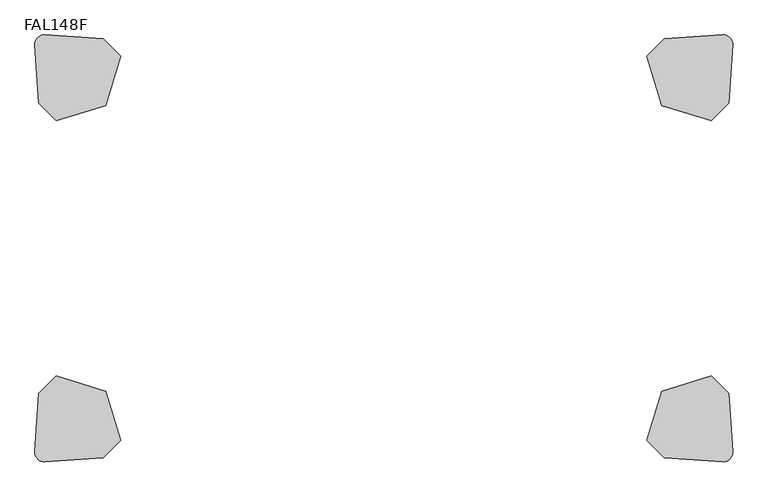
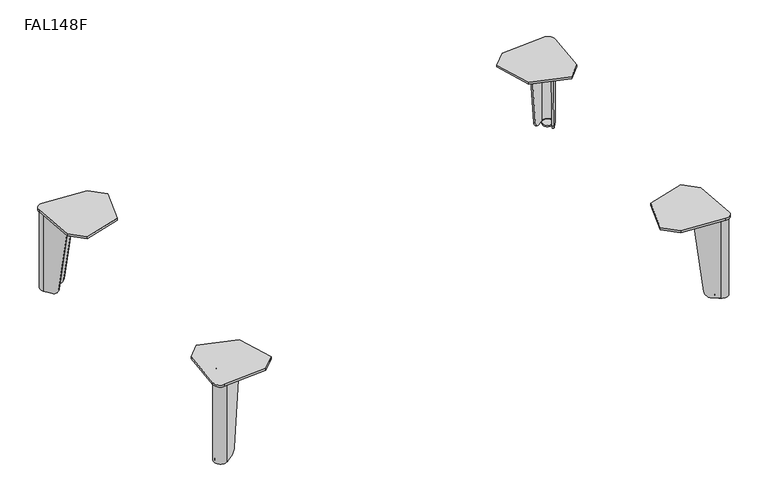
"""IFC4 building model written with IfcOpenShell, lengths in millimetres: furniture geometry, Stance_HC-Flora-Seat_Straight : FAL148F."""

import ifcopenshell
import ifcopenshell.guid

model = None  # the IFC model being written
_history = None  # IfcOwnerHistory: only IFC2X3 demands one
_inside = {}  # id of a spatial element -> (the spatial element, [elements in it])
_under = {}  # id of a project, library or spatial element -> (it, [spatial elements below it])
_declared = {}  # id of a project -> (the project, [libraries it declares])
_typed = {}  # id of a type object -> (the type object, [elements of that type])
_made_of = {}  # id of a material, layer set ... -> (it, [elements and type objects made of it])


def new_model(schema):
    """Start an empty IFC model of exactly this schema.

    Asked for "IFC4X3", IfcOpenShell would pick the latest addendum, in which some entities
    have other attributes; the version numbers below select the first issue.
    IFC2X3 requires an IfcOwnerHistory on every rooted entity: one is made here for all.
    """
    global model, _history
    if schema == "IFC4X3":
        model = ifcopenshell.file(schema_version=(4, 3, 0, 0))
    else:
        model = ifcopenshell.file(schema=schema)
    _inside.clear()
    _under.clear()
    _declared.clear()
    _typed.clear()
    _made_of.clear()
    _history = None
    if model.schema == "IFC2X3":
        org = make("IfcOrganization", Name="unknown")
        user = make(
            "IfcPersonAndOrganization",
            ThePerson=make("IfcPerson", FamilyName="unknown"),
            TheOrganization=org,
        )
        app = make(
            "IfcApplication",
            ApplicationDeveloper=org,
            Version="unknown",
            ApplicationFullName="unknown",
            ApplicationIdentifier="unknown",
        )
        _history = make(
            "IfcOwnerHistory",
            OwningUser=user,
            OwningApplication=app,
            ChangeAction="ADDED",
            CreationDate=0,
        )
    return model


def make(cls, **values):
    """One entity of the class cls with the attributes given. An attribute that is None is left unset."""
    return model.create_entity(
        cls, **{name: value for name, value in values.items() if value is not None}
    )


def rooted(cls, **values):
    """An entity with a GlobalId (a new one), such as an element, a storey or a relation."""
    return make(cls, GlobalId=ifcopenshell.guid.new(), OwnerHistory=_history, **values)


def si_unit(unit_type, name, prefix=None):
    """IfcSIUnit, for example si_unit("LENGTHUNIT", "METRE", prefix="MILLI")."""
    return make("IfcSIUnit", UnitType=unit_type, Prefix=prefix, Name=name)


def assignment(units):
    """IfcUnitAssignment: the units of a project."""
    return None if units is None else make("IfcUnitAssignment", Units=units)


def point(xyz):
    """IfcCartesianPoint."""
    return None if xyz is None else make("IfcCartesianPoint", Coordinates=xyz)


def direction(xyz):
    """IfcDirection."""
    return None if xyz is None else make("IfcDirection", DirectionRatios=xyz)


def frame(location, z_axis=None, x_axis=None):
    """IfcAxis2Placement3D, a coordinate frame: its origin and axes. An axis left out is left unset."""
    return make(
        "IfcAxis2Placement3D",
        Location=point(location),
        Axis=direction(z_axis),
        RefDirection=direction(x_axis),
    )


def frame_2d(location, x_axis=None):
    """IfcAxis2Placement2D, a coordinate frame in the plane: its origin and x axis."""
    return make(
        "IfcAxis2Placement2D", Location=point(location), RefDirection=direction(x_axis)
    )


def origin():
    """The frame at (0, 0, 0) with its axes left unset."""
    return frame((0.0, 0.0, 0.0))


def origin_with_axes():
    """The frame at (0, 0, 0) with the z axis (0, 0, 1) and the x axis (1, 0, 0) written out."""
    return frame((0.0, 0.0, 0.0), z_axis=(0.0, 0.0, 1.0), x_axis=(1.0, 0.0, 0.0))


def place(relative_to, where):
    """IfcLocalPlacement: puts the frame where relative to a parent placement (None: the world)."""
    return make(
        "IfcLocalPlacement", PlacementRelTo=relative_to, RelativePlacement=where
    )


def context(
    kind, dimensions, precision=None, world=None, true_north=None, identifier=None
):
    """IfcGeometricRepresentationContext, for example the 3D "Model" context."""
    return make(
        "IfcGeometricRepresentationContext",
        ContextIdentifier=identifier,
        ContextType=kind,
        CoordinateSpaceDimension=dimensions,
        Precision=precision,
        WorldCoordinateSystem=world,
        TrueNorth=true_north,
    )


def project(units=None, contexts=None):
    """IfcProject with its units and contexts."""
    return rooted(
        "IfcProject",
        Name="project",
        RepresentationContexts=contexts,
        UnitsInContext=assignment(units),
    )


def spatial(cls, under=None, at=None, **own):
    """A site, building, storey or space (cls), placed at a placement, below another one or the project."""
    s = rooted(cls, ObjectPlacement=at, **own)
    if under is not None:
        _under.setdefault(under.id(), (under, []))[1].append(s)
    return s


def polyline(points):
    """IfcPolyline through the points."""
    return make("IfcPolyline", Points=[point(p) for p in points])


def circle_curve(where, radius):
    """IfcCircle in the frame where."""
    return make("IfcCircle", Position=where, Radius=radius)


def ellipse_curve(where, semi_axis1, semi_axis2):
    """IfcEllipse in the frame where."""
    return make(
        "IfcEllipse", Position=where, SemiAxis1=semi_axis1, SemiAxis2=semi_axis2
    )


def trimmed(basis, trim1, trim2, sense, master):
    """IfcTrimmedCurve: the piece of a basis curve between two trims."""
    return make(
        "IfcTrimmedCurve",
        BasisCurve=basis,
        Trim1=trim1,
        Trim2=trim2,
        SenseAgreement=sense,
        MasterRepresentation=master,
    )


def segment(curve, same_sense, transition):
    """IfcCompositeCurveSegment."""
    return make(
        "IfcCompositeCurveSegment",
        Transition=transition,
        SameSense=same_sense,
        ParentCurve=curve,
    )


def composite_curve(segments, self_intersect=None):
    """IfcCompositeCurve: segments joined end to end."""
    return make("IfcCompositeCurve", Segments=segments, SelfIntersect=self_intersect)


def outline(outer, holes=None, kind="AREA"):
    """IfcArbitraryClosedProfileDef: a profile drawn as a closed curve; with holes, ...WithVoids."""
    if holes is None:
        return make("IfcArbitraryClosedProfileDef", ProfileType=kind, OuterCurve=outer)
    return make(
        "IfcArbitraryProfileDefWithVoids",
        ProfileType=kind,
        OuterCurve=outer,
        InnerCurves=holes,
    )


def extrude(swept, where, along, depth):
    """IfcExtrudedAreaSolid: the profile swept, set in the frame where, extruded along a direction by depth."""
    return make(
        "IfcExtrudedAreaSolid",
        SweptArea=swept,
        Position=where,
        ExtrudedDirection=direction(along),
        Depth=depth,
    )


def shape(context_of_items, identifier, shape_type, items):
    """IfcShapeRepresentation: the items that make up one representation, for example the "Body"."""
    return make(
        "IfcShapeRepresentation",
        ContextOfItems=context_of_items,
        RepresentationIdentifier=identifier,
        RepresentationType=shape_type,
        Items=items,
    )


def source(mapping_origin, context_of_items, identifier, shape_type, items):
    """IfcRepresentationMap: a shape defined once, which mapped items show again and again."""
    return make(
        "IfcRepresentationMap",
        MappingOrigin=mapping_origin,
        MappedRepresentation=shape(context_of_items, identifier, shape_type, items),
    )


def transform(
    local_origin,
    x_axis=None,
    y_axis=None,
    z_axis=None,
    scale=None,
    scale2=None,
    scale3=None,
    uniform=True,
):
    """IfcCartesianTransformationOperator3D, or its non-uniform kind. x_axis, y_axis, z_axis: its Axis1, 2, 3."""
    if uniform:
        return make(
            "IfcCartesianTransformationOperator3D",
            Axis1=direction(x_axis),
            Axis2=direction(y_axis),
            LocalOrigin=point(local_origin),
            Scale=scale,
            Axis3=direction(z_axis),
        )
    return make(
        "IfcCartesianTransformationOperator3DnonUniform",
        Axis1=direction(x_axis),
        Axis2=direction(y_axis),
        LocalOrigin=point(local_origin),
        Scale=scale,
        Axis3=direction(z_axis),
        Scale2=scale2,
        Scale3=scale3,
    )


def mapped(mapping_source, mapping_target):
    """IfcMappedItem: shows the shape of a source again, moved by a transform."""
    return make(
        "IfcMappedItem", MappingSource=mapping_source, MappingTarget=mapping_target
    )


def made_of(thing, what):
    """Note that an element or type object is made of a material, layer set ...; save() writes the relation."""
    if what is not None:
        _made_of.setdefault(what.id(), (what, []))[1].append(thing)
    return thing


def element(
    cls,
    number,
    at=None,
    inside=None,
    cuts=None,
    type_object=None,
    material=None,
    context=None,
    identifier="Body",
    shape_type=None,
    held_by="IfcProductDefinitionShape",
    body=None,
    shapes=None,
    **own,
):
    """One element of the class cls, such as IfcWall. Its Tag is "e" and its number.

    at: its placement. inside: the storey or other place that contains it. cuts: it is an
    opening in that element (IfcRelVoidsElement). A single representation is given by context,
    identifier, shape_type and body (its items); several are given by shapes. held_by: the class
    of the entity that holds the representations. save() writes the other relations.
    """
    e = rooted(cls, Tag="e%d" % number, ObjectPlacement=at, **own)
    if body is not None:
        shapes = [shape(context, identifier, shape_type, body)]
    if shapes is not None:
        e.Representation = make(held_by, Representations=shapes)
    if inside is not None:
        _inside.setdefault(inside.id(), (inside, []))[1].append(e)
    if cuts is not None:
        rooted(
            "IfcRelVoidsElement", RelatingBuildingElement=cuts, RelatedOpeningElement=e
        )
    if type_object is not None:
        _typed.setdefault(type_object.id(), (type_object, []))[1].append(e)
    return made_of(e, material)


def aggregate(whole, parts):
    """IfcRelAggregates: a whole, such as a stair, and the parts it consists of."""
    return rooted("IfcRelAggregates", RelatingObject=whole, RelatedObjects=parts)


def save(model, path):
    """Write the relations noted so far, then the file.

    IfcRelAggregates (storeys below a building ...), IfcRelContainedInSpatialStructure (elements
    in a storey), IfcRelDefinesByType, IfcRelAssociatesMaterial and IfcRelDeclares: one each for
    every whole, place, type object, material and project.
    """
    for whole, parts in _under.values():
        aggregate(whole, parts)
    for where, things in _inside.values():
        rooted(
            "IfcRelContainedInSpatialStructure",
            RelatedElements=things,
            RelatingStructure=where,
        )
    for kind, things in _typed.values():
        rooted("IfcRelDefinesByType", RelatedObjects=things, RelatingType=kind)
    for what, things in _made_of.values():
        rooted("IfcRelAssociatesMaterial", RelatedObjects=things, RelatingMaterial=what)
    for by, libraries in _declared.values():
        rooted("IfcRelDeclares", RelatingContext=by, RelatedDefinitions=libraries)
    model.write(path)


def plane_surface(at):
    """IfcPlane: the flat surface through the origin of the frame at, square to its z axis."""
    return make("IfcPlane", Position=at)


def cylinder_surface(at, radius):
    """IfcCylindricalSurface: all points at the distance radius from the z axis of the frame at."""
    return make("IfcCylindricalSurface", Position=at, Radius=radius)


def revolved_surface(curve, axis_point, axis_direction):
    """IfcSurfaceOfRevolution: the curve turned about the line through axis_point along axis_direction."""
    return make(
        "IfcSurfaceOfRevolution",
        SweptCurve=make("IfcArbitraryOpenProfileDef", ProfileType="CURVE", Curve=curve),
        AxisPosition=make("IfcAxis1Placement", Location=point(axis_point), Axis=direction(axis_direction)),
    )


def advanced_brep(points, edges, surfaces, faces):
    """IfcAdvancedBrep: a solid bounded by faces that lie on surfaces and meet in shared edges.

    An edge is (start, end): straight between two places in points (the first is 0);
    or (start, end, curve); or (start, end, curve, False) where it runs against its curve.
    A face is (place in surfaces, loops), or (place, loops, False) where it looks against
    its surface's normal. A loop lists edges by number (the first is 1), with a minus sign
    where the edge is run from its end to its start. The first loop is the outer one.
    """
    corners = [point(p) for p in points]
    vertices = [make("IfcVertexPoint", VertexGeometry=c) for c in corners]
    made = []
    for start, end, *more in edges:
        made.append(
            make(
                "IfcEdgeCurve",
                EdgeStart=vertices[start],
                EdgeEnd=vertices[end],
                EdgeGeometry=more[0] if more else make("IfcPolyline", Points=[corners[start], corners[end]]),
                SameSense=more[1] if len(more) > 1 else True,
            )
        )
    hull = []
    for where, loops, *sense in faces:
        bounds = []
        for j, loop in enumerate(loops):
            ring = [make("IfcOrientedEdge", EdgeElement=made[abs(k) - 1], Orientation=k > 0) for k in loop]
            bounds.append(
                make(
                    "IfcFaceOuterBound" if j == 0 else "IfcFaceBound",
                    Bound=make("IfcEdgeLoop", EdgeList=ring),
                    Orientation=True,
                )
            )
        hull.append(make("IfcAdvancedFace", Bounds=bounds, FaceSurface=surfaces[where], SameSense=sense[0] if sense else True))
    return make("IfcAdvancedBrep", Outer=make("IfcClosedShell", CfsFaces=hull))


def fal148f_830a6b6a(model_context):
    return source(origin(), model_context, "Body", "SolidModel", [
        advanced_brep(
        [(1176.2314582, -86.7866368, 193.6877233), (1208.1555647, -41.1944649, 193.6877233), (1187.5305412, -20.5694413, 193.6877233), (1141.9383719, -52.4935459, 193.6877233), (1143.7820096, -55.1265233, 193.6877233), (1189.3741789, -23.2024186, 193.6877233), (1205.5225874, -39.3508272, 193.6877233), (1173.5984809, -84.9429991, 193.6877233), (1176.2314582, -86.7866368, 189.1419595), (1205.5225874, -39.3508272, 3.1876992), (1195.4018779, -53.8046422, 3.1876992), (1186.2247818, -66.9108427, 17.1280233), (1189.3741789, -23.2024186, 3.1876992), (1161.8141633, -42.5002243, 17.1280233), (1174.9203639, -33.3231282, 3.1876992), (1141.9383719, -52.4935459, 189.1419334), (1187.5305412, -20.5694413, 3.1876992), (1172.6124662, -31.0152305, 3.1876992), (1159.5062656, -40.1923266, 17.1280233), (1208.1555647, -41.1944649, 3.1876992), (1188.5326795, -69.2187405, 17.1280233), (1197.7097756, -56.1125399, 3.1876992)],
        [
            (0, 1),
            (1, 2, circle_curve(frame((1196.0246983, -32.7003078, 193.6877233), z_axis=(0.0, 0.0, 1.0), x_axis=(-1.0, 0.0, 0.0)), 14.8090724)),
            (2, 3),
            (3, 4),
            (4, 5),
            (5, 6, circle_curve(frame((1196.0246983, -32.7003078, 193.6877233), z_axis=(0.0, 0.0, -1.0), x_axis=(-1.0, 0.0, 0.0)), 11.5947965)),
            (6, 7),
            (7, 0),
            (7, 8),
            (8, 0),
            (6, 9),
            (9, 10),
            (10, 11, ellipse_curve(frame((1195.4018779, -53.8046422, 19.0626992), z_axis=(-0.8191509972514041, 0.5735779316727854, 0.0), x_axis=(-0.5735779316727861, -0.8191509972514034, 0.0)), 16.1198923, 15.875)),
            (11, 7),
            (5, 12),
            (12, 9, circle_curve(frame((1196.0246983, -32.7003078, 3.1876992), z_axis=(0.0, 0.0, -1.0), x_axis=(-1.0, 0.0, 0.0)), 11.5947965)),
            (4, 13),
            (13, 14, ellipse_curve(frame((1174.9203639, -33.3231282, 19.0626992), z_axis=(0.5735779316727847, -0.8191509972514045, 0.0), x_axis=(0.8191509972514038, 0.5735779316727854, 0.0)), 16.1198923, 15.875)),
            (14, 12),
            (3, 15),
            (15, 4),
            (2, 16),
            (16, 17),
            (17, 18, ellipse_curve(frame((1172.6124662, -31.0152305, 19.0626992), z_axis=(-0.5735779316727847, 0.8191509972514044, 0.0), x_axis=(0.8191509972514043, 0.573577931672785, 0.0)), 16.1198923, 15.875)),
            (18, 15),
            (1, 19),
            (19, 16, circle_curve(frame((1196.0246983, -32.7003078, 3.1876992), z_axis=(0.0, 0.0, 1.0), x_axis=(-1.0, 0.0, 0.0)), 14.8090724)),
            (8, 20),
            (20, 21, ellipse_curve(frame((1197.7097756, -56.1125399, 19.0626992), z_axis=(0.8191509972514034, -0.5735779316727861, 0.0), x_axis=(-0.5735779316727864, -0.8191509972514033, 0.0)), 16.1198923, 15.875)),
            (21, 19),
            (18, 13),
            (11, 20),
            (21, 10),
            (14, 17),
        ],
        [
            plane_surface(frame((1173.5984809, -84.9429991, 193.6877233), z_axis=(0.0, 0.0, 1.0000000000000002), x_axis=(-0.8191509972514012, 0.5735779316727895, 0.0))),
            plane_surface(frame((1176.2314582, -86.7866368, 193.6877233), z_axis=(-0.5735779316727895, -0.8191509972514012, 0.0), x_axis=(0.0, 0.0, -1.0))),
            plane_surface(frame((1173.5984809, -84.9429991, 193.6877233), z_axis=(-0.8191509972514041, 0.5735779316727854, 0.0), x_axis=(0.0, 0.0, -1.0))),
            revolved_surface(polyline([(1184.4299018, -32.7003078, 3.1876992), (1184.4299018, -32.7003078, 193.6877233)]), (1196.0246983, -32.7003078, 0.0), (0.0, 0.0, -1.0)),
            plane_surface(frame((1189.3741789, -23.2024186, 193.6877233), z_axis=(0.5735779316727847, -0.8191509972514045, 0.0), x_axis=(0.0, 0.0, -1.0))),
            plane_surface(frame((1143.7820096, -55.1265233, 193.6877233), z_axis=(-0.8191509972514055, -0.5735779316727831, 0.0), x_axis=(0.0, 0.0, -1.0))),
            plane_surface(frame((1141.9383719, -52.4935459, 193.6877233), z_axis=(-0.5735779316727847, 0.8191509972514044, 0.0), x_axis=(0.0, 0.0, -1.0))),
            cylinder_surface(frame((1196.0246983, -32.7003078, 0.0), z_axis=(0.0, 0.0, 1.0), x_axis=(-1.0, 0.0, 0.0)), 14.8090724),
            plane_surface(frame((1208.1555647, -41.1944649, 193.6877233), z_axis=(0.8191509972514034, -0.5735779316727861, 0.0), x_axis=(0.0, 0.0, -1.0))),
            plane_surface(frame((1153.6224625, -34.3085234, 17.1280233), z_axis=(-0.7018361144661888, -0.7018361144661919, -0.12186934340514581), x_axis=(0.7071067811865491, -0.707106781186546, 0.0))),
            plane_surface(frame((1186.112818, -1.818168, 3.1876992), z_axis=(0.0, 0.0, -1.0), x_axis=(0.707106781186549, -0.707106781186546, 0.0))),
            cylinder_surface(frame((1205.5497538, -63.9525182, 19.0626992), z_axis=(0.7071067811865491, -0.707106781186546, 0.0), x_axis=(-0.707106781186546, -0.7071067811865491, 0.0)), 15.875),
        ],
        [
            (0, [[1, 2, 3, 4, 5, 6, 7, 8]]),
            (1, [[9, 10, -8]]),
            (2, [[11, 12, 13, 14, -7]]),
            (3, [[15, 16, -11, -6]]),
            (4, [[17, 18, 19, -15, -5]]),
            (5, [[20, 21, -4]]),
            (6, [[22, 23, 24, 25, -20, -3]]),
            (7, [[26, 27, -22, -2]]),
            (8, [[-10, 28, 29, 30, -26, -1]]),
            (9, [[-17, -21, -25, 31]]),
            (9, [[-28, -9, -14, 32]]),
            (10, [[-23, -27, -30, 33, -12, -16, -19, 34]]),
            (11, [[-13, -33, -29, -32]]),
            (11, [[-24, -34, -18, -31]]),
        ],
    ),
        extrude(outline(composite_curve([segment(trimmed(circle_curve(frame_2d((1193.9913541, -34.7252749)), 11.1125), [point((1205.1038541, -34.7252749))], [point((1182.8788541, -34.7252749))], False, "CARTESIAN"), True, "CONTINUOUS"), segment(trimmed(circle_curve(frame_2d((1193.9913541, -34.7252749)), 11.1125), [point((1182.8788541, -34.7252749))], [point((1205.1038541, -34.7252749))], False, "CARTESIAN"), True, "CONTINUOUS")], self_intersect=False)), origin_with_axes(), (0.0, 0.0, 1.0), 3.175),
        extrude(outline(composite_curve([segment(trimmed(circle_curve(frame_2d((1197.3438064, -31.3811988)), 15.8749964), [point((1196.2364228, -15.5448732))], [point((1213.1801321, -32.4885822))], False, "CARTESIAN"), True, "CONTINUOUS"), segment(polyline([(1213.1801321, -32.4885822), (1206.1831602, -132.5499778), (1176.3327865, -162.4003462), (1092.3896864, -136.3353271), (1066.3246518, -52.3922188), (1096.1750239, -22.5418467), (1196.2364228, -15.5448732)]), True, "CONTINUOUS")], self_intersect=False)), frame((0.0, 0.0, 193.6877233), z_axis=(0.0, 0.0, 1.0), x_axis=(1.0, 0.0, 0.0)), (0.0, 0.0, 1.0), 4.7751809),
        extrude(outline(composite_curve([segment(polyline([(1176.0692791, -729.4814086), (1196.2063601, -709.3443276), (1205.5225874, -722.6492273)]), True, "CONTINUOUS"), segment(trimmed(circle_curve(frame_2d((1196.0246983, -729.2997467)), 11.5947965), [point((1205.5225874, -722.6492273))], [point((1189.3741789, -738.7976359))], False, "CARTESIAN"), True, "CONTINUOUS"), segment(polyline([(1189.3741789, -738.7976359), (1176.0692791, -729.4814086)]), True, "CONTINUOUS")], self_intersect=False)), frame((0.0, 0.0, 3.175), z_axis=(0.0, 0.0, 1.0), x_axis=(1.0, 0.0, 0.0)), (0.0, 0.0, 1.0), 3.3792927),
        advanced_brep(
        [(1176.2314582, -675.2134177, 193.6877233), (1173.5984809, -677.0570554, 193.6877233), (1205.5225874, -722.6492273, 193.6877233), (1189.3741789, -738.7976359, 193.6877233), (1143.7820096, -706.8735312, 193.6877233), (1141.9383719, -709.5065086, 193.6877233), (1187.5305412, -741.4306132, 193.6877233), (1208.1555647, -720.8055896, 193.6877233), (1176.2314582, -675.2134177, 189.1419595), (1186.2247818, -695.0892118, 17.1280233), (1195.4018779, -708.1954123, 3.1876992), (1205.5225874, -722.6492273, 3.1876992), (1189.3741789, -738.7976359, 3.1876992), (1174.9203639, -728.6769263, 3.1876992), (1161.8141633, -719.4998302, 17.1280233), (1141.9383719, -709.5065086, 189.1419334), (1159.5062656, -721.8077279, 17.1280233), (1172.6124662, -730.984824, 3.1876992), (1187.5305412, -741.4306132, 3.1876992), (1208.1555647, -720.8055896, 3.1876992), (1197.7097756, -705.8875146, 3.1876992), (1188.5326795, -692.781314, 17.1280233)],
        [
            (0, 1),
            (1, 2),
            (2, 3, circle_curve(frame((1196.0246983, -729.2997467, 193.6877233), z_axis=(0.0, 0.0, -1.0), x_axis=(-1.0, 0.0, 0.0)), 11.5947965)),
            (3, 4),
            (4, 5),
            (5, 6),
            (6, 7, circle_curve(frame((1196.0246983, -729.2997467, 193.6877233), z_axis=(0.0, 0.0, 1.0), x_axis=(-1.0, 0.0, 0.0)), 14.8090724)),
            (7, 0),
            (0, 8),
            (8, 1),
            (1, 9),
            (9, 10, ellipse_curve(frame((1195.4018779, -708.1954123, 19.0626992), z_axis=(-0.8191509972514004, -0.5735779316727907, 0.0), x_axis=(-0.5735779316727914, 0.8191509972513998, 0.0)), 16.1198923, 15.875)),
            (10, 11),
            (11, 2),
            (11, 12, circle_curve(frame((1196.0246983, -729.2997467, 3.1876992), z_axis=(0.0, 0.0, -1.0), x_axis=(-1.0, 0.0, 0.0)), 11.5947965)),
            (12, 3),
            (12, 13),
            (13, 14, ellipse_curve(frame((1174.9203639, -728.6769263, 19.0626992), z_axis=(0.5735779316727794, 0.8191509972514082, 0.0), x_axis=(0.8191509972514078, -0.5735779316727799, 0.0)), 16.1198923, 15.875)),
            (14, 4),
            (4, 15),
            (15, 5),
            (15, 16),
            (16, 17, ellipse_curve(frame((1172.6124662, -730.984824, 19.0626992), z_axis=(-0.5735779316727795, -0.8191509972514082, 0.0), x_axis=(0.8191509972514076, -0.5735779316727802, 0.0)), 16.1198923, 15.875)),
            (17, 18),
            (18, 6),
            (18, 19, circle_curve(frame((1196.0246983, -729.2997467, 3.1876992), z_axis=(0.0, 0.0, 1.0), x_axis=(-1.0, 0.0, 0.0)), 14.8090724)),
            (19, 7),
            (19, 20),
            (20, 21, ellipse_curve(frame((1197.7097756, -705.8875146, 19.0626992), z_axis=(0.8191509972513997, 0.5735779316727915, 0.0), x_axis=(-0.573577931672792, 0.8191509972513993, 0.0)), 16.1198923, 15.875)),
            (21, 8),
            (14, 16),
            (21, 9),
            (17, 13),
            (10, 20),
        ],
        [
            plane_surface(frame((1173.5984809, -677.0570554, 193.6877233), z_axis=(0.0, 0.0, 0.9999999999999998), x_axis=(-0.8191509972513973, -0.5735779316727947, 0.0))),
            plane_surface(frame((1176.2314582, -675.2134177, 193.6877233), z_axis=(-0.5735779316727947, 0.8191509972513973, 0.0), x_axis=(0.0, 0.0, -1.0))),
            plane_surface(frame((1173.5984809, -677.0570554, 193.6877233), z_axis=(-0.8191509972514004, -0.5735779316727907, 0.0), x_axis=(0.0, 0.0, -1.0))),
            revolved_surface(polyline([(1184.4299018, -729.2997467, 3.1876992), (1184.4299018, -729.2997467, 193.6877233)]), (1196.0246983, -729.2997467, 0.0), (0.0, 0.0, -1.0)),
            plane_surface(frame((1189.3741789, -738.7976359, 193.6877233), z_axis=(0.5735779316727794, 0.8191509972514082, 0.0), x_axis=(0.0, 0.0, -1.0))),
            plane_surface(frame((1143.7820096, -706.8735312, 193.6877233), z_axis=(-0.8191509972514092, 0.5735779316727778, 0.0), x_axis=(0.0, 0.0, -1.0))),
            plane_surface(frame((1141.9383719, -709.5065086, 193.6877233), z_axis=(-0.5735779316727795, -0.8191509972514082, 0.0), x_axis=(0.0, 0.0, -1.0))),
            cylinder_surface(frame((1196.0246983, -729.2997467, 0.0), z_axis=(0.0, 0.0, 1.0), x_axis=(-1.0, 0.0, 0.0)), 14.8090724),
            plane_surface(frame((1208.1555647, -720.8055896, 193.6877233), z_axis=(0.8191509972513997, 0.5735779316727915, 0.0), x_axis=(0.0, 0.0, -1.0))),
            plane_surface(frame((1153.6224625, -727.6915311, 17.1280233), z_axis=(-0.7018361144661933, 0.7018361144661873, -0.12186934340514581), x_axis=(0.7071067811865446, 0.7071067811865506, 0.0))),
            plane_surface(frame((1186.112818, -760.1818865, 3.1876992), z_axis=(0.0, 0.0, -1.0), x_axis=(0.7071067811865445, 0.7071067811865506, 0.0))),
            cylinder_surface(frame((1205.5497538, -698.0475363, 19.0626992), z_axis=(0.7071067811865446, 0.7071067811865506, 0.0), x_axis=(-0.7071067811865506, 0.7071067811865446, 0.0)), 15.875),
        ],
        [
            (0, [[1, 2, 3, 4, 5, 6, 7, 8]]),
            (1, [[-1, 9, 10]]),
            (2, [[-2, 11, 12, 13, 14]]),
            (3, [[-3, -14, 15, 16]]),
            (4, [[-4, -16, 17, 18, 19]]),
            (5, [[-5, 20, 21]]),
            (6, [[-6, -21, 22, 23, 24, 25]]),
            (7, [[-7, -25, 26, 27]]),
            (8, [[-8, -27, 28, 29, 30, -9]]),
            (9, [[31, -22, -20, -19]]),
            (9, [[32, -11, -10, -30]]),
            (10, [[33, -17, -15, -13, 34, -28, -26, -24]]),
            (11, [[-31, -18, -33, -23]]),
            (11, [[-32, -29, -34, -12]]),
        ],
    ),
        extrude(outline(composite_curve([segment(trimmed(circle_curve(frame_2d((1193.9913541, -727.2747796)), 11.1125), [point((1205.1038541, -727.2747796))], [point((1182.8788541, -727.2747796))], False, "CARTESIAN"), True, "CONTINUOUS"), segment(trimmed(circle_curve(frame_2d((1193.9913541, -727.2747796)), 11.1125), [point((1182.8788541, -727.2747796))], [point((1205.1038541, -727.2747796))], False, "CARTESIAN"), True, "CONTINUOUS")], self_intersect=False)), origin_with_axes(), (0.0, 0.0, 1.0), 3.175),
        extrude(outline(composite_curve([segment(polyline([(1196.2364228, -746.4551813), (1096.1750239, -739.4582078), (1066.3246518, -709.6078357), (1092.3896864, -625.6647274), (1176.3327865, -599.5997083), (1206.1831602, -629.4500767), (1213.1801321, -729.5114723)]), True, "CONTINUOUS"), segment(trimmed(circle_curve(frame_2d((1197.3438064, -730.6188557)), 15.8749964), [point((1213.1801321, -729.5114723))], [point((1196.2364228, -746.4551813))], False, "CARTESIAN"), True, "CONTINUOUS")], self_intersect=False)), frame((0.0, 0.0, 193.6877233), z_axis=(0.0, 0.0, 1.0), x_axis=(1.0, 0.0, 0.0)), (0.0, 0.0, 1.0), 4.7751809),
        extrude(outline(composite_curve([segment(polyline([(55.8307262, -729.4814086), (42.5258264, -738.7976359)]), True, "CONTINUOUS"), segment(trimmed(circle_curve(frame_2d((35.875307, -729.2997467)), 11.5947965), [point((42.5258264, -738.7976359))], [point((26.3774179, -722.6492273))], False, "CARTESIAN"), True, "CONTINUOUS"), segment(polyline([(26.3774179, -722.6492273), (35.6936452, -709.3443276), (55.8307262, -729.4814086)]), True, "CONTINUOUS")], self_intersect=False)), frame((0.0, 0.0, 3.175), z_axis=(0.0, 0.0, 1.0), x_axis=(1.0, 0.0, 0.0)), (0.0, 0.0, 1.0), 3.3792927),
        advanced_brep(
        [(55.6685471, -675.2134177, 193.6877233), (23.7444406, -720.8055896, 193.6877233), (44.3694641, -741.4306132, 193.6877233), (89.9616334, -709.5065086, 193.6877233), (88.1179957, -706.8735312, 193.6877233), (42.5258264, -738.7976359, 193.6877233), (26.3774179, -722.6492273, 193.6877233), (58.3015244, -677.0570554, 193.6877233), (55.6685471, -675.2134177, 189.1419595), (26.3774179, -722.6492273, 3.1876992), (36.4981274, -708.1954123, 3.1876992), (45.6752235, -695.0892118, 17.1280233), (42.5258264, -738.7976359, 3.1876992), (70.085842, -719.4998302, 17.1280233), (56.9796414, -728.6769263, 3.1876992), (89.9616334, -709.5065086, 189.1419334), (44.3694641, -741.4306132, 3.1876992), (59.2875391, -730.984824, 3.1876992), (72.3937397, -721.8077279, 17.1280233), (23.7444406, -720.8055896, 3.1876992), (43.3673258, -692.781314, 17.1280233), (34.1902297, -705.8875146, 3.1876992)],
        [
            (0, 1),
            (1, 2, circle_curve(frame((35.875307, -729.2997467, 193.6877233), z_axis=(0.0, 0.0, 1.0), x_axis=(1.0, 0.0, 0.0)), 14.8090724)),
            (2, 3),
            (3, 4),
            (4, 5),
            (5, 6, circle_curve(frame((35.875307, -729.2997467, 193.6877233), z_axis=(0.0, 0.0, -1.0), x_axis=(1.0, 0.0, 0.0)), 11.5947965)),
            (6, 7),
            (7, 0),
            (7, 8),
            (8, 0),
            (6, 9),
            (9, 10),
            (10, 11, ellipse_curve(frame((36.4981274, -708.1954123, 19.0626992), z_axis=(0.8191509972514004, -0.5735779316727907, 0.0), x_axis=(0.5735779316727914, 0.8191509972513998, 0.0)), 16.1198923, 15.875)),
            (11, 7),
            (5, 12),
            (12, 9, circle_curve(frame((35.875307, -729.2997467, 3.1876992), z_axis=(0.0, 0.0, -1.0), x_axis=(1.0, 0.0, 0.0)), 11.5947965)),
            (4, 13),
            (13, 14, ellipse_curve(frame((56.9796414, -728.6769263, 19.0626992), z_axis=(-0.5735779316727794, 0.8191509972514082, 0.0), x_axis=(-0.8191509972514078, -0.5735779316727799, 0.0)), 16.1198923, 15.875)),
            (14, 12),
            (3, 15),
            (15, 4),
            (2, 16),
            (16, 17),
            (17, 18, ellipse_curve(frame((59.2875391, -730.984824, 19.0626992), z_axis=(0.5735779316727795, -0.8191509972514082, 0.0), x_axis=(-0.8191509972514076, -0.5735779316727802, 0.0)), 16.1198923, 15.875)),
            (18, 15),
            (1, 19),
            (19, 16, circle_curve(frame((35.875307, -729.2997467, 3.1876992), z_axis=(0.0, 0.0, 1.0), x_axis=(1.0, 0.0, 0.0)), 14.8090724)),
            (8, 20),
            (20, 21, ellipse_curve(frame((34.1902297, -705.8875146, 19.0626992), z_axis=(-0.8191509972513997, 0.5735779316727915, 0.0), x_axis=(0.573577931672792, 0.8191509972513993, 0.0)), 16.1198923, 15.875)),
            (21, 19),
            (18, 13),
            (11, 20),
            (21, 10),
            (14, 17),
        ],
        [
            plane_surface(frame((58.3015244, -677.0570554, 193.6877233), z_axis=(0.0, 0.0, 0.9999999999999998), x_axis=(0.8191509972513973, -0.5735779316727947, 0.0))),
            plane_surface(frame((55.6685471, -675.2134177, 193.6877233), z_axis=(0.5735779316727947, 0.8191509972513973, 0.0), x_axis=(0.0, 0.0, -1.0))),
            plane_surface(frame((58.3015244, -677.0570554, 193.6877233), z_axis=(0.8191509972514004, -0.5735779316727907, 0.0), x_axis=(0.0, 0.0, -1.0))),
            revolved_surface(polyline([(47.4701035, -729.2997467, 3.1876992), (47.4701035, -729.2997467, 193.6877233)]), (35.875307, -729.2997467, 0.0), (0.0, 0.0, -1.0)),
            plane_surface(frame((42.5258264, -738.7976359, 193.6877233), z_axis=(-0.5735779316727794, 0.8191509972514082, 0.0), x_axis=(0.0, 0.0, -1.0))),
            plane_surface(frame((88.1179957, -706.8735312, 193.6877233), z_axis=(0.8191509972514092, 0.5735779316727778, 0.0), x_axis=(0.0, 0.0, -1.0))),
            plane_surface(frame((89.9616334, -709.5065086, 193.6877233), z_axis=(0.5735779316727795, -0.8191509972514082, 0.0), x_axis=(0.0, 0.0, -1.0))),
            cylinder_surface(frame((35.875307, -729.2997467, 0.0), z_axis=(0.0, 0.0, 1.0), x_axis=(1.0, 0.0, 0.0)), 14.8090724),
            plane_surface(frame((23.7444406, -720.8055896, 193.6877233), z_axis=(-0.8191509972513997, 0.5735779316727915, 0.0), x_axis=(0.0, 0.0, -1.0))),
            plane_surface(frame((78.2775428, -727.6915311, 17.1280233), z_axis=(0.7018361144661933, 0.7018361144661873, -0.12186934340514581), x_axis=(-0.7071067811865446, 0.7071067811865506, 0.0))),
            plane_surface(frame((45.7871873, -760.1818865, 3.1876992), z_axis=(0.0, 0.0, -1.0), x_axis=(-0.7071067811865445, 0.7071067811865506, 0.0))),
            cylinder_surface(frame((26.3502515, -698.0475363, 19.0626992), z_axis=(-0.7071067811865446, 0.7071067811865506, 0.0), x_axis=(0.7071067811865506, 0.7071067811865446, 0.0)), 15.875),
        ],
        [
            (0, [[1, 2, 3, 4, 5, 6, 7, 8]]),
            (1, [[9, 10, -8]]),
            (2, [[11, 12, 13, 14, -7]]),
            (3, [[15, 16, -11, -6]]),
            (4, [[17, 18, 19, -15, -5]]),
            (5, [[20, 21, -4]]),
            (6, [[22, 23, 24, 25, -20, -3]]),
            (7, [[26, 27, -22, -2]]),
            (8, [[-10, 28, 29, 30, -26, -1]]),
            (9, [[-17, -21, -25, 31]]),
            (9, [[-28, -9, -14, 32]]),
            (10, [[-23, -27, -30, 33, -12, -16, -19, 34]]),
            (11, [[-13, -33, -29, -32]]),
            (11, [[-24, -34, -18, -31]]),
        ],
    ),
        extrude(outline(composite_curve([segment(trimmed(circle_curve(frame_2d((37.9086512, -727.2747796)), 11.1125), [point((26.7961512, -727.2747796))], [point((49.0211512, -727.2747796))], False, "CARTESIAN"), True, "CONTINUOUS"), segment(trimmed(circle_curve(frame_2d((37.9086512, -727.2747796)), 11.1125), [point((49.0211512, -727.2747796))], [point((26.7961512, -727.2747796))], False, "CARTESIAN"), True, "CONTINUOUS")], self_intersect=False)), origin_with_axes(), (0.0, 0.0, 1.0), 3.175),
        extrude(outline(composite_curve([segment(trimmed(circle_curve(frame_2d((34.5561989, -730.6188557)), 15.8749964), [point((35.6635825, -746.4551813))], [point((18.7198732, -729.5114723))], False, "CARTESIAN"), True, "CONTINUOUS"), segment(polyline([(18.7198732, -729.5114723), (25.7168451, -629.4500767), (55.5672188, -599.5997083), (139.5103189, -625.6647274), (165.5753535, -709.6078357), (135.7249814, -739.4582078), (35.6635825, -746.4551813)]), True, "CONTINUOUS")], self_intersect=False)), frame((0.0, 0.0, 193.6877233), z_axis=(0.0, 0.0, 1.0), x_axis=(1.0, 0.0, 0.0)), (0.0, 0.0, 1.0), 4.7751809),
        extrude(outline(composite_curve([segment(polyline([(55.8307262, -32.5186459), (35.6936452, -52.6557269), (26.3774179, -39.3508272)]), True, "CONTINUOUS"), segment(trimmed(circle_curve(frame_2d((35.875307, -32.7003078)), 11.5947965), [point((26.3774179, -39.3508272))], [point((42.5258264, -23.2024186))], False, "CARTESIAN"), True, "CONTINUOUS"), segment(polyline([(42.5258264, -23.2024186), (55.8307262, -32.5186459)]), True, "CONTINUOUS")], self_intersect=False)), frame((0.0, 0.0, 3.175), z_axis=(0.0, 0.0, 1.0), x_axis=(1.0, 0.0, 0.0)), (0.0, 0.0, 1.0), 3.3792927),
        advanced_brep(
        [(55.6685471, -86.7866368, 193.6877233), (58.3015244, -84.9429991, 193.6877233), (26.3774179, -39.3508272, 193.6877233), (42.5258264, -23.2024186, 193.6877233), (88.1179957, -55.1265233, 193.6877233), (89.9616334, -52.4935459, 193.6877233), (44.3694641, -20.5694413, 193.6877233), (23.7444406, -41.1944649, 193.6877233), (55.6685471, -86.7866368, 189.1419595), (45.6752235, -66.9108427, 17.1280233), (36.4981274, -53.8046422, 3.1876992), (26.3774179, -39.3508272, 3.1876992), (42.5258264, -23.2024186, 3.1876992), (56.9796414, -33.3231282, 3.1876992), (70.085842, -42.5002243, 17.1280233), (89.9616334, -52.4935459, 189.1419334), (72.3937397, -40.1923266, 17.1280233), (59.2875391, -31.0152305, 3.1876992), (44.3694641, -20.5694413, 3.1876992), (23.7444406, -41.1944649, 3.1876992), (34.1902297, -56.1125399, 3.1876992), (43.3673258, -69.2187405, 17.1280233)],
        [
            (0, 1),
            (1, 2),
            (2, 3, circle_curve(frame((35.875307, -32.7003078, 193.6877233), z_axis=(0.0, 0.0, -1.0), x_axis=(1.0, 0.0, 0.0)), 11.5947965)),
            (3, 4),
            (4, 5),
            (5, 6),
            (6, 7, circle_curve(frame((35.875307, -32.7003078, 193.6877233), z_axis=(0.0, 0.0, 1.0), x_axis=(1.0, 0.0, 0.0)), 14.8090724)),
            (7, 0),
            (0, 8),
            (8, 1),
            (1, 9),
            (9, 10, ellipse_curve(frame((36.4981274, -53.8046422, 19.0626992), z_axis=(0.8191509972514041, 0.5735779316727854, 0.0), x_axis=(0.5735779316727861, -0.8191509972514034, 0.0)), 16.1198923, 15.875)),
            (10, 11),
            (11, 2),
            (11, 12, circle_curve(frame((35.875307, -32.7003078, 3.1876992), z_axis=(0.0, 0.0, -1.0), x_axis=(1.0, 0.0, 0.0)), 11.5947965)),
            (12, 3),
            (12, 13),
            (13, 14, ellipse_curve(frame((56.9796414, -33.3231282, 19.0626992), z_axis=(-0.5735779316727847, -0.8191509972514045, 0.0), x_axis=(-0.8191509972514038, 0.5735779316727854, 0.0)), 16.1198923, 15.875)),
            (14, 4),
            (4, 15),
            (15, 5),
            (15, 16),
            (16, 17, ellipse_curve(frame((59.2875391, -31.0152305, 19.0626992), z_axis=(0.5735779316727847, 0.8191509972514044, 0.0), x_axis=(-0.8191509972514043, 0.573577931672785, 0.0)), 16.1198923, 15.875)),
            (17, 18),
            (18, 6),
            (18, 19, circle_curve(frame((35.875307, -32.7003078, 3.1876992), z_axis=(0.0, 0.0, 1.0), x_axis=(1.0, 0.0, 0.0)), 14.8090724)),
            (19, 7),
            (19, 20),
            (20, 21, ellipse_curve(frame((34.1902297, -56.1125399, 19.0626992), z_axis=(-0.8191509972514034, -0.5735779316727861, 0.0), x_axis=(0.5735779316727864, -0.8191509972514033, 0.0)), 16.1198923, 15.875)),
            (21, 8),
            (14, 16),
            (21, 9),
            (17, 13),
            (10, 20),
        ],
        [
            plane_surface(frame((58.3015244, -84.9429991, 193.6877233), z_axis=(0.0, 0.0, 1.0000000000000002), x_axis=(0.8191509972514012, 0.5735779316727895, 0.0))),
            plane_surface(frame((55.6685471, -86.7866368, 193.6877233), z_axis=(0.5735779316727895, -0.8191509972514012, 0.0), x_axis=(0.0, 0.0, -1.0))),
            plane_surface(frame((58.3015244, -84.9429991, 193.6877233), z_axis=(0.8191509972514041, 0.5735779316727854, 0.0), x_axis=(0.0, 0.0, -1.0))),
            revolved_surface(polyline([(47.4701035, -32.7003078, 3.1876992), (47.4701035, -32.7003078, 193.6877233)]), (35.875307, -32.7003078, 0.0), (0.0, 0.0, -1.0)),
            plane_surface(frame((42.5258264, -23.2024186, 193.6877233), z_axis=(-0.5735779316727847, -0.8191509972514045, 0.0), x_axis=(0.0, 0.0, -1.0))),
            plane_surface(frame((88.1179957, -55.1265233, 193.6877233), z_axis=(0.8191509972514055, -0.5735779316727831, 0.0), x_axis=(0.0, 0.0, -1.0))),
            plane_surface(frame((89.9616334, -52.4935459, 193.6877233), z_axis=(0.5735779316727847, 0.8191509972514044, 0.0), x_axis=(0.0, 0.0, -1.0))),
            cylinder_surface(frame((35.875307, -32.7003078, 0.0), z_axis=(0.0, 0.0, 1.0), x_axis=(1.0, 0.0, 0.0)), 14.8090724),
            plane_surface(frame((23.7444406, -41.1944649, 193.6877233), z_axis=(-0.8191509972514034, -0.5735779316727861, 0.0), x_axis=(0.0, 0.0, -1.0))),
            plane_surface(frame((78.2775428, -34.3085234, 17.1280233), z_axis=(0.7018361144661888, -0.7018361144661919, -0.12186934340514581), x_axis=(-0.7071067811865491, -0.707106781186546, 0.0))),
            plane_surface(frame((45.7871873, -1.818168, 3.1876992), z_axis=(0.0, 0.0, -1.0), x_axis=(-0.707106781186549, -0.707106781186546, 0.0))),
            cylinder_surface(frame((26.3502515, -63.9525182, 19.0626992), z_axis=(-0.7071067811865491, -0.707106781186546, 0.0), x_axis=(0.707106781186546, -0.7071067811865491, 0.0)), 15.875),
        ],
        [
            (0, [[1, 2, 3, 4, 5, 6, 7, 8]]),
            (1, [[-1, 9, 10]]),
            (2, [[-2, 11, 12, 13, 14]]),
            (3, [[-3, -14, 15, 16]]),
            (4, [[-4, -16, 17, 18, 19]]),
            (5, [[-5, 20, 21]]),
            (6, [[-6, -21, 22, 23, 24, 25]]),
            (7, [[-7, -25, 26, 27]]),
            (8, [[-8, -27, 28, 29, 30, -9]]),
            (9, [[31, -22, -20, -19]]),
            (9, [[32, -11, -10, -30]]),
            (10, [[33, -17, -15, -13, 34, -28, -26, -24]]),
            (11, [[-31, -18, -33, -23]]),
            (11, [[-32, -29, -34, -12]]),
        ],
    ),
        extrude(outline(composite_curve([segment(trimmed(circle_curve(frame_2d((37.9086512, -34.7252749)), 11.1125), [point((26.7961512, -34.7252749))], [point((49.0211512, -34.7252749))], False, "CARTESIAN"), True, "CONTINUOUS"), segment(trimmed(circle_curve(frame_2d((37.9086512, -34.7252749)), 11.1125), [point((49.0211512, -34.7252749))], [point((26.7961512, -34.7252749))], False, "CARTESIAN"), True, "CONTINUOUS")], self_intersect=False)), origin_with_axes(), (0.0, 0.0, 1.0), 3.175),
        extrude(outline(composite_curve([segment(polyline([(35.6635825, -15.5448732), (135.7249814, -22.5418467), (165.5753535, -52.3922188), (139.5103189, -136.3353271), (55.5672188, -162.4003462), (25.7168451, -132.5499778), (18.7198732, -32.4885822)]), True, "CONTINUOUS"), segment(trimmed(circle_curve(frame_2d((34.5561989, -31.3811988)), 15.8749964), [point((18.7198732, -32.4885822))], [point((35.6635825, -15.5448732))], False, "CARTESIAN"), True, "CONTINUOUS")], self_intersect=False)), frame((0.0, 0.0, 193.6877233), z_axis=(0.0, 0.0, 1.0), x_axis=(1.0, 0.0, 0.0)), (0.0, 0.0, 1.0), 4.7751809),
    ])


if __name__ == "__main__":
    model = new_model("IFC4")
    model_context = context("Model", 3, world=origin())
    ifc_project = project(units=[si_unit("LENGTHUNIT", "METRE", prefix="MILLI")], contexts=[model_context])
    site = spatial("IfcSite", under=ifc_project)
    building = spatial("IfcBuilding", under=site)
    placement = place(None, origin())
    fal148f_shape = fal148f_830a6b6a(model_context)
    element("IfcFurniture", 1, ObjectType="Stance_HC-Flora-Seat_Straight : FAL148F", at=placement, inside=building, context=model_context, shape_type="MappedRepresentation", body=[
        mapped(fal148f_shape, transform((0.0, 0.0, 0.0), x_axis=(1.0, 0.0, 0.0), y_axis=(0.0, 1.0, 0.0), z_axis=(0.0, 0.0, 1.0))),
    ])
    save(model, "model.ifc")
